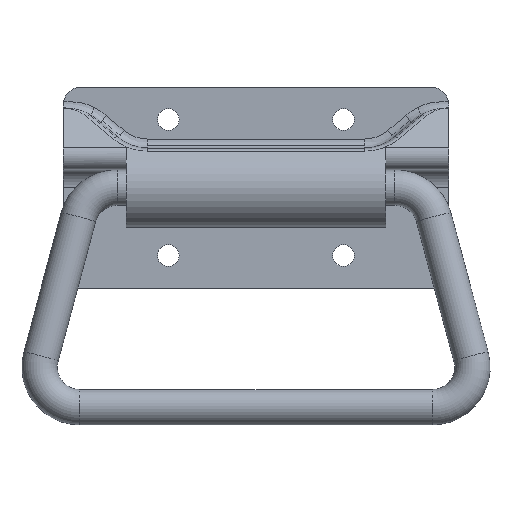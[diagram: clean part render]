
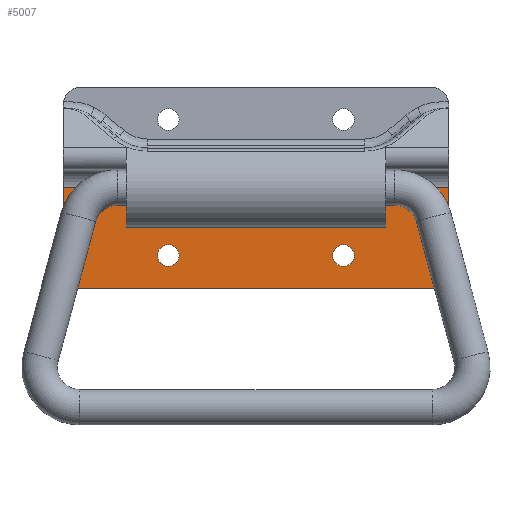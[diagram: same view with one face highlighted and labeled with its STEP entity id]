
A CAD part, left-side view. The second image highlights one B-rep face of the part: STEP entity #5007.
In plain terms, the highlighted planar face has unit normal (-1, 0, 0).
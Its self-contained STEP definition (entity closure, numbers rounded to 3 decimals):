
#165=CARTESIAN_POINT('',(4.,-19.43,-17.49));
#166=VERTEX_POINT('',#165);
#175=CARTESIAN_POINT('',(4.,-19.43,-12.69));
#176=VERTEX_POINT('',#175);
#177=CARTESIAN_POINT('',(4.,-19.43,-15.09));
#178=DIRECTION('',(1.0,0.0,0.0));
#179=DIRECTION('',(0.0,0.0,-1.0));
#180=AXIS2_PLACEMENT_3D('',#177,#178,#179);
#181=CIRCLE('',#180,2.4);
#182=EDGE_CURVE('',#176,#166,#181,.T.);
#249=CARTESIAN_POINT('',(4.,19.47,-17.49));
#250=VERTEX_POINT('',#249);
#259=CARTESIAN_POINT('',(4.,19.47,-12.69));
#260=VERTEX_POINT('',#259);
#261=CARTESIAN_POINT('',(4.,19.47,-15.09));
#262=DIRECTION('',(1.0,0.0,0.0));
#263=DIRECTION('',(0.0,0.0,-1.0));
#264=AXIS2_PLACEMENT_3D('',#261,#262,#263);
#265=CIRCLE('',#264,2.4);
#266=EDGE_CURVE('',#260,#250,#265,.T.);
#962=CARTESIAN_POINT('',(4.,28.8,-5.745));
#963=VERTEX_POINT('',#962);
#964=CARTESIAN_POINT('',(4.,28.8,-4.2));
#965=VERTEX_POINT('',#964);
#966=CARTESIAN_POINT('',(4.,28.8,-5.745));
#967=DIRECTION('',(0.0,0.0,1.0));
#968=VECTOR('',#967,1.545);
#969=LINE('',#966,#968);
#970=EDGE_CURVE('',#963,#965,#969,.T.);
#2998=CARTESIAN_POINT('',(4.,28.8,0.0));
#2999=VERTEX_POINT('',#2998);
#3007=CARTESIAN_POINT('',(4.,28.8,-4.2));
#3008=DIRECTION('',(0.0,0.0,1.0));
#3009=VECTOR('',#3008,4.2);
#3010=LINE('',#3007,#3009);
#3011=EDGE_CURVE('',#965,#2999,#3010,.T.);
#3024=CARTESIAN_POINT('',(4.,28.8,-7.838));
#3025=VERTEX_POINT('',#3024);
#3026=CARTESIAN_POINT('',(4.,28.8,-7.838));
#3027=DIRECTION('',(0.0,0.0,1.0));
#3028=VECTOR('',#3027,2.094);
#3029=LINE('',#3026,#3028);
#3030=EDGE_CURVE('',#3025,#963,#3029,.T.);
#3070=CARTESIAN_POINT('',(4.,42.8,-18.35));
#3071=VERTEX_POINT('',#3070);
#3078=CARTESIAN_POINT('',(4.,42.8,0.0));
#3079=VERTEX_POINT('',#3078);
#3080=CARTESIAN_POINT('',(4.,42.8,0.0));
#3081=DIRECTION('',(0.0,0.0,-1.0));
#3082=VECTOR('',#3081,18.35);
#3083=LINE('',#3080,#3082);
#3084=EDGE_CURVE('',#3079,#3071,#3083,.T.);
#3155=CARTESIAN_POINT('',(4.,38.8,-22.35));
#3156=VERTEX_POINT('',#3155);
#3163=CARTESIAN_POINT('',(4.,38.8,-18.35));
#3164=DIRECTION('',(-1.0,0.0,0.0));
#3165=DIRECTION('',(0.0,1.0,0.0));
#3166=AXIS2_PLACEMENT_3D('',#3163,#3164,#3165);
#3167=CIRCLE('',#3166,4.0);
#3168=EDGE_CURVE('',#3071,#3156,#3167,.T.);
#3180=CARTESIAN_POINT('',(4.,-38.8,-22.35));
#3181=VERTEX_POINT('',#3180);
#3188=CARTESIAN_POINT('',(4.,-38.8,-22.35));
#3189=DIRECTION('',(0.0,1.0,0.0));
#3190=VECTOR('',#3189,77.6);
#3191=LINE('',#3188,#3190);
#3192=EDGE_CURVE('',#3181,#3156,#3191,.T.);
#3204=CARTESIAN_POINT('',(4.,-42.8,-18.35));
#3205=VERTEX_POINT('',#3204);
#3212=CARTESIAN_POINT('',(4.,-38.8,-18.35));
#3213=DIRECTION('',(-1.0,0.0,0.0));
#3214=DIRECTION('',(0.0,0.0,-1.0));
#3215=AXIS2_PLACEMENT_3D('',#3212,#3213,#3214);
#3216=CIRCLE('',#3215,4.0);
#3217=EDGE_CURVE('',#3181,#3205,#3216,.T.);
#4594=CARTESIAN_POINT('',(4.,-42.8,0.));
#4595=VERTEX_POINT('',#4594);
#4603=CARTESIAN_POINT('',(4.,-42.8,0.));
#4604=DIRECTION('',(0.0,0.0,-1.0));
#4605=VECTOR('',#4604,18.35);
#4606=LINE('',#4603,#4605);
#4607=EDGE_CURVE('',#4595,#3205,#4606,.T.);
#4774=CARTESIAN_POINT('',(4.,-28.8,-7.838));
#4775=VERTEX_POINT('',#4774);
#4776=CARTESIAN_POINT('',(4.,-28.8,-7.838));
#4777=DIRECTION('',(0.0,1.0,0.0));
#4778=VECTOR('',#4777,57.6);
#4779=LINE('',#4776,#4778);
#4780=EDGE_CURVE('',#4775,#3025,#4779,.T.);
#4800=CARTESIAN_POINT('',(4.,19.47,-15.09));
#4801=DIRECTION('',(1.0,0.0,0.0));
#4802=DIRECTION('',(0.0,0.0,-1.0));
#4803=AXIS2_PLACEMENT_3D('',#4800,#4801,#4802);
#4804=CIRCLE('',#4803,2.4);
#4805=EDGE_CURVE('',#250,#260,#4804,.T.);
#4836=CARTESIAN_POINT('',(4.,-19.43,-15.09));
#4837=DIRECTION('',(1.0,0.0,0.0));
#4838=DIRECTION('',(0.0,0.0,-1.0));
#4839=AXIS2_PLACEMENT_3D('',#4836,#4837,#4838);
#4840=CIRCLE('',#4839,2.4);
#4841=EDGE_CURVE('',#166,#176,#4840,.T.);
#4963=CARTESIAN_POINT('',(4.,-42.8,-7.838));
#4964=DIRECTION('',(-1.0,0.0,0.0));
#4965=DIRECTION('',(0.0,0.0,1.0));
#4966=AXIS2_PLACEMENT_3D('',#4963,#4964,#4965);
#4967=PLANE('',#4966);
#4968=ORIENTED_EDGE('',*,*,#3217,.T.);
#4969=ORIENTED_EDGE('',*,*,#4607,.F.);
#4970=CARTESIAN_POINT('',(4.,-28.8,0.));
#4971=VERTEX_POINT('',#4970);
#4972=CARTESIAN_POINT('',(4.,-28.8,0.));
#4973=DIRECTION('',(0.0,-1.0,0.0));
#4974=VECTOR('',#4973,14.0);
#4975=LINE('',#4972,#4974);
#4976=EDGE_CURVE('',#4971,#4595,#4975,.T.);
#4977=ORIENTED_EDGE('',*,*,#4976,.F.);
#4978=CARTESIAN_POINT('',(4.,-28.8,0.));
#4979=DIRECTION('',(0.0,0.0,-1.0));
#4980=VECTOR('',#4979,7.838);
#4981=LINE('',#4978,#4980);
#4982=EDGE_CURVE('',#4971,#4775,#4981,.T.);
#4983=ORIENTED_EDGE('',*,*,#4982,.T.);
#4984=ORIENTED_EDGE('',*,*,#4780,.T.);
#4985=ORIENTED_EDGE('',*,*,#3030,.T.);
#4986=ORIENTED_EDGE('',*,*,#970,.T.);
#4987=ORIENTED_EDGE('',*,*,#3011,.T.);
#4988=CARTESIAN_POINT('',(4.,42.8,0.0));
#4989=DIRECTION('',(0.0,-1.0,0.0));
#4990=VECTOR('',#4989,14.0);
#4991=LINE('',#4988,#4990);
#4992=EDGE_CURVE('',#3079,#2999,#4991,.T.);
#4993=ORIENTED_EDGE('',*,*,#4992,.F.);
#4994=ORIENTED_EDGE('',*,*,#3084,.T.);
#4995=ORIENTED_EDGE('',*,*,#3168,.T.);
#4996=ORIENTED_EDGE('',*,*,#3192,.F.);
#4997=EDGE_LOOP('',(#4968,#4969,#4977,#4983,#4984,#4985,#4986,#4987,#4993,#4994,#4995,#4996));
#4998=FACE_OUTER_BOUND('',#4997,.T.);
#4999=ORIENTED_EDGE('',*,*,#266,.T.);
#5000=ORIENTED_EDGE('',*,*,#4805,.T.);
#5001=EDGE_LOOP('',(#4999,#5000));
#5002=FACE_BOUND('',#5001,.T.);
#5003=ORIENTED_EDGE('',*,*,#182,.T.);
#5004=ORIENTED_EDGE('',*,*,#4841,.T.);
#5005=EDGE_LOOP('',(#5003,#5004));
#5006=FACE_BOUND('',#5005,.T.);
#5007=ADVANCED_FACE('',(#4998,#5002,#5006),#4967,.T.);
